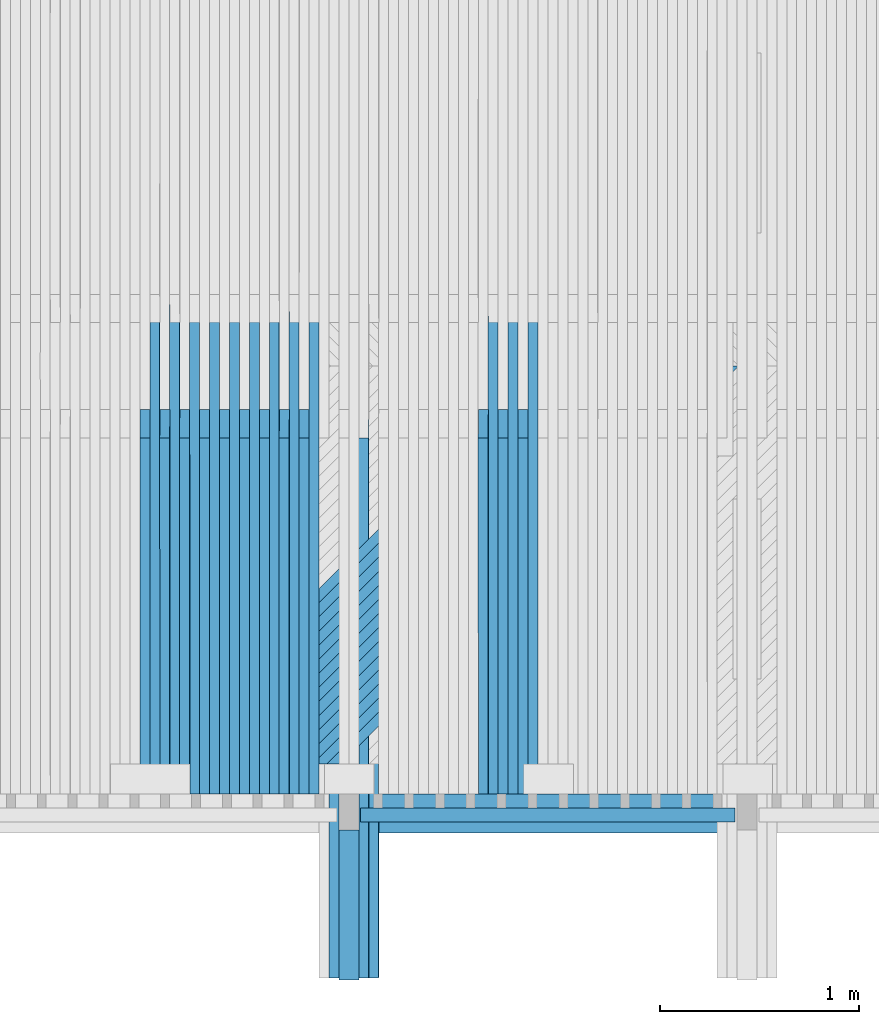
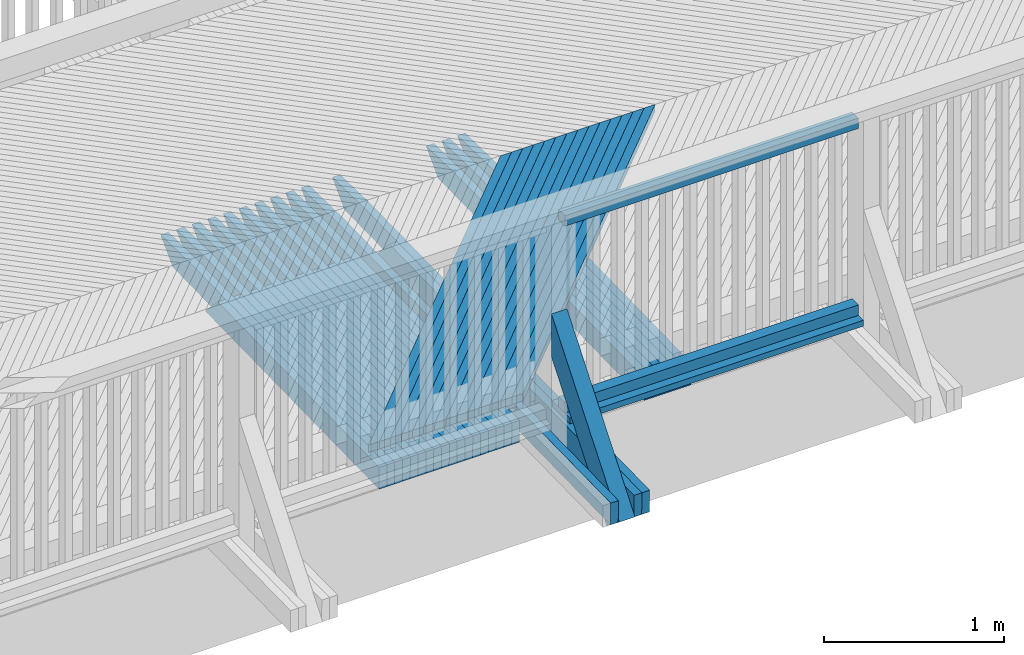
# One storey, part 23 of 53: 44 beams, 1 member.
"""IFC2X3 building model written with IfcOpenShell, lengths in millimetres."""

from ifc_helpers import new_model, si_unit, frame, origin_with_axes, place, context, subcontext, project, spatial, faceted_brep, material, type_object, element, save


model = new_model("IFC2X3")

# Units and contexts
model_context = context("Model", 3, precision=1e-05, world=origin_with_axes())
body_context = subcontext(model_context, "Body", "Model", "MODEL_VIEW")
ifc_project = project(units=[si_unit("LENGTHUNIT", "METRE", prefix="MILLI"), si_unit("AREAUNIT", "SQUARE_METRE"), si_unit("VOLUMEUNIT", "CUBIC_METRE"), si_unit("MASSUNIT", "GRAM", prefix="KILO"), si_unit("TIMEUNIT", "SECOND"), si_unit("PLANEANGLEUNIT", "RADIAN"), si_unit("SOLIDANGLEUNIT", "STERADIAN"), si_unit("THERMODYNAMICTEMPERATUREUNIT", "DEGREE_CELSIUS"), si_unit("LUMINOUSINTENSITYUNIT", "LUMEN")], contexts=[model_context])

# Site, building, storey
site_placement = place(None, origin_with_axes())
site = spatial("IfcSite", under=ifc_project, at=site_placement, Name="Undefined", CompositionType="ELEMENT")
building_placement = place(site_placement, origin_with_axes())
building = spatial("IfcBuilding", under=site, at=building_placement, Name="Undefined", CompositionType="ELEMENT")
storey_placement = place(building_placement, origin_with_axes())
storey = spatial("IfcBuildingStorey", under=building, at=storey_placement, Name="Undefined", CompositionType="ELEMENT", Elevation=0.0)

# Member
ifc_material = material(Name="TIMBER/Timber_Undefined")
member_type = type_object("IfcMemberType", Name="180*100", PredefinedType="NOTDEFINED")
member_placement = place(storey_placement, frame((6000.00641464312, 39351.2316008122, 2950.63480496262), z_axis=(0.0, -0.783926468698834, 0.620853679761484), x_axis=(-4.01699999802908e-06, 0.620853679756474, 0.783926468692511)))
element("IfcMember", 1, at=member_placement, inside=storey, type_object=member_type, material=ifc_material, Name="KAIDEPYLVÄS", ObjectType="180*100", context=body_context, shape_type="Brep", body=[
    faceted_brep([(0.0, 50.0, -89.9999999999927), (0.0, 50.0, 90.0), (1214.99480886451, 50.0000000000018, 90.0000000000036), (987.716194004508, 50.0, -89.9999999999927), (0.0, -49.9999999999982, 90.0000000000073), (1214.99440716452, -49.9999999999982, 90.0000000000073), (-3.63797880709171e-12, -49.9999999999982, -90.0), (987.715792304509, -49.9999999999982, -89.9999999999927)], [[[0, 1, 2, 3]], [[1, 4, 5, 2]], [[4, 6, 7, 5]], [[6, 0, 3, 7]], [[5, 7, 3, 2]], [[6, 4, 1, 0]]]),
])

# Beams
beam_type_1 = type_object("IfcBeamType", Name="70*70", PredefinedType="NOTDEFINED")
for number, where, z_axis, x_axis, name in (
    (2, (6060.06112513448, 40110.0100145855, 3259.99442729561), (0.0, -1.0, 0.0), (0.999998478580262, 0.0, 0.00174437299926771), "BEAM"),
    (3, (6060.06112513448, 40110.0100145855, 4524.99442729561), (0.0, -1.0, 0.0), (0.999998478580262, 0.0, 0.00174437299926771), "BEAM"),
):
    element("IfcBeam", number, at=place(storey_placement, frame(where, z_axis=z_axis, x_axis=x_axis)), inside=storey, type_object=beam_type_1, material=ifc_material, Name=name, ObjectType="70*70", context=body_context, shape_type="Brep", body=[
        faceted_brep([(-3.63797880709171e-12, 35.0000000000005, -35.0), (-3.63797880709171e-12, 35.0000000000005, 35.0), (1880.00289069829, 35.0, 35.0), (1880.00289069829, 35.0, -35.0), (-3.63797880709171e-12, -34.9999999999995, 35.0), (1880.00289069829, -35.0000000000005, 35.0), (-3.63797880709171e-12, -34.9999999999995, -35.0), (1880.00289069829, -35.0000000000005, -35.0)], [[[0, 1, 2, 3]], [[1, 4, 5, 2]], [[4, 6, 7, 5]], [[6, 0, 3, 7]], [[5, 7, 3, 2]], [[6, 4, 1, 0]]]),
    ])
beam_type_2 = type_object("IfcBeamType", Name="195*40", PredefinedType="NOTDEFINED")
beam_1_placement = place(storey_placement, frame((6059.30077842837, 40117.5100145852, 3205.00226514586), z_axis=(0.0, -1.0, 0.0), x_axis=(0.999998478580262, 0.0, 0.00174437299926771)))
element("IfcBeam", 4, at=beam_1_placement, inside=storey, type_object=beam_type_2, material=ifc_material, Name="BEAM", ObjectType="195*40", context=body_context, shape_type="Brep", body=[
    faceted_brep([(0.0, 20.0, -97.5), (0.0, 20.0, 97.5), (1880.22135781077, 19.9999999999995, 97.5), (1880.22135781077, 19.9999999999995, -97.5), (3.63797880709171e-12, -20.0, 97.5), (1880.22135781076, -20.0000000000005, 97.5), (3.63797880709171e-12, -20.0, -97.5), (1880.22135781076, -20.0000000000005, -97.5)], [[[0, 1, 2, 3]], [[1, 4, 5, 2]], [[4, 6, 7, 5]], [[6, 0, 3, 7]], [[5, 7, 3, 2]], [[6, 4, 1, 0]]]),
])
beam_type_3 = type_object("IfcBeamType", Name="50*50", PredefinedType="NOTDEFINED")
for number, where, z_axis, x_axis, name in (
    (5, (7923.63385700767, 42364.5001003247, 3236.11721724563), (0.70711609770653, -0.706981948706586, -0.0127807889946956), (-0.707094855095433, -0.706948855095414, -0.0154978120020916), "BEAM"),
    (6, (7852.9096247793, 42364.5001003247, 3236.10409357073), (0.707117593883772, -0.706981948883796, -0.0126977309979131), (-0.707093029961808, -0.706948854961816, -0.0155808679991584), "BEAM"),
    (7, (7782.18539458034, 42364.5001003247, 3236.082662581), (0.707119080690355, -0.706981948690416, -0.0126146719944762), (-0.707091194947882, -0.706948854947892, -0.0156639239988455), "BEAM"),
    (8, (7711.46116738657, 42364.5001003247, 3236.0529242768), (0.707120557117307, -0.706981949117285, -0.012531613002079), (-0.707089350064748, -0.706948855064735, -0.0157469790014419), "BEAM"),
    (9, (7640.73694417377, 42364.5001003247, 3236.01487865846), (0.707122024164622, -0.706981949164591, -0.0124485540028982), (-0.707087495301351, -0.706948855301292, -0.0158300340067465), "BEAM"),
    (10, (7570.01272591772, 42364.5001003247, 3235.96852572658), (0.707123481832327, -0.706981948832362, -0.0123654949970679), (-0.70708563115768, -0.706948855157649, -0.0159130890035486), "BEAM"),
    (11, (7499.28851359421, 42364.5001003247, 3235.91386548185), (0.707124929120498, -0.706981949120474, -0.012282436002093), (-0.707083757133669, -0.706948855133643, -0.015996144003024), "BEAM"),
    (12, (7428.56430817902, 42364.5001003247, 3235.85089792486), (0.707126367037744, -0.706981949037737, -0.0121993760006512), (-0.707081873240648, -0.706948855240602, -0.0160791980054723), "BEAM"),
    (13, (7357.84011064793, 42364.5001003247, 3235.77962305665), (0.707127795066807, -0.706981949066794, -0.0121163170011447), (-0.707079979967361, -0.706948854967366, -0.016162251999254), "BEAM"),
    (14, (7287.11592197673, 42364.5001003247, 3235.70004087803), (0.707129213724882, -0.706981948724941, -0.0120332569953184), (-0.707078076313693, -0.706948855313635, -0.0162453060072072), "BEAM"),
    (15, (7216.39174314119, 42364.5001003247, 3235.61215139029), (0.707130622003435, -0.706981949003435, -0.0119501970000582), (-0.707076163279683, -0.706948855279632, -0.0163283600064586), "BEAM"),
    (16, (7145.6675751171, 42364.5001003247, 3235.51595459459), (0.70713202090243, -0.706981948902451, -0.0118671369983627), (-0.707074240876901, -0.706948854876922, -0.0164114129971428), "BEAM"),
    (17, (7074.94341888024, 42364.5001003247, 3235.4114504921), (0.707133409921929, -0.706981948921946, -0.0117840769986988), (-0.707072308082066, -0.706948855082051, -0.0164944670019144), "BEAM"),
    (18, (7004.2192754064, 42364.5001003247, 3235.29863908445), (0.707134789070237, -0.706981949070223, -0.0117010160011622), (-0.707070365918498, -0.706948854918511, -0.0165775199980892), "BEAM"),
):
    element("IfcBeam", number, at=place(storey_placement, frame(where, z_axis=z_axis, x_axis=x_axis)), inside=storey, type_object=beam_type_3, material=ifc_material, Name=name, ObjectType="50*50", context=body_context, shape_type="Brep", body=[
        faceted_brep([(24.8942457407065, 25.0, -25.0), (-25.0086637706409, 24.9999999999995, 24.9999999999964), (2804.34067830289, 25.0, 25.0000000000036), (2854.34301907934, 24.9999999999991, -25.0000000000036), (-26.4222658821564, -25.0000000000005, 25.0000000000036), (2802.92643296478, -25.0, 25.0), (23.4806436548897, -25.0, -25.0), (2852.92877373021, -25.0000000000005, -25.0000000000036)], [[[0, 1, 2, 3]], [[1, 4, 5, 2]], [[4, 6, 7, 5]], [[6, 0, 3, 7]], [[5, 7, 3, 2]], [[6, 4, 1, 0]]]),
    ])
beam_type_4 = type_object("IfcBeamType", Name="150*50", PredefinedType="NOTDEFINED")
beam_2_placement = place(storey_placement, frame((6125.36076207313, 39292.7893475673, 3071.75363633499), z_axis=(-0.00311234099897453, -0.0199960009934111, 0.999795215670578), x_axis=(-6.36829999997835e-05, 0.999800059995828, 0.0199958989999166)))
element("IfcBeam", 19, at=beam_2_placement, inside=storey, type_object=beam_type_4, material=ifc_material, Name="BEAM", ObjectType="150*50", context=body_context, shape_type="Brep", body=[
    faceted_brep([(1.28420651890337e-08, -24.9999999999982, -74.9999999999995), (-1.28347892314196e-08, -24.9999999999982, 75.0), (-1.28347892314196e-08, 25.0, 75.0), (1.28420651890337e-08, 25.0000000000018, -75.0), (3298.90497884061, 24.9999999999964, -74.9999999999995), (3298.90492234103, -25.0, -74.9999999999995), (3434.49245887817, -25.0, 60.5875365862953), (3074.32503029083, -25.0, 75.0000000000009), (3074.32503673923, 25.0000000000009, 75.0), (3434.49251531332, 24.9999999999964, 60.5875365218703)], [[[0, 1, 2, 3]], [[0, 3, 4, 5]], [[1, 0, 5, 6, 7]], [[2, 1, 7, 8]], [[4, 3, 2, 8, 9]], [[5, 4, 9, 6]], [[8, 7, 6, 9]]]),
])
beam_3_placement = place(storey_placement, frame((6075.34321859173, 39292.7893321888, 3071.59793145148), z_axis=(-0.00327846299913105, -0.0199960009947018, 0.999794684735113), x_axis=(-6.67669999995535e-05, 0.999800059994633, 0.0199958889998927)))
element("IfcBeam", 20, at=beam_3_placement, inside=storey, type_object=beam_type_4, material=ifc_material, Name="BEAM", ObjectType="150*50", context=body_context, shape_type="Brep", body=[
    faceted_brep([(1.28420651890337e-08, -24.9999999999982, -74.9999999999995), (-1.28347892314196e-08, -24.9999999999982, 75.0), (-1.28347892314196e-08, 25.0, 75.0), (1.28420651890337e-08, 25.0000000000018, -75.0), (2852.32648139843, -25.0000000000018, -75.0000000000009), (2713.86938248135, -25.0000000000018, 74.9999999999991), (2713.86933800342, 25.0000000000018, 75.0), (2852.32643692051, 24.9999999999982, -75.0000000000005)], [[[0, 1, 2, 3]], [[1, 0, 4, 5]], [[2, 1, 5, 6]], [[3, 2, 6, 7]], [[0, 3, 7, 4]], [[4, 7, 6, 5]]]),
])
beam_4_placement = place(storey_placement, frame((5925.32402066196, 39292.7893321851, 3071.09768860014), z_axis=(-0.00344458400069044, -0.0199960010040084, 0.999794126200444), x_axis=(-6.91999999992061e-05, 0.999800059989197, 0.019995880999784)))
element("IfcBeam", 21, at=beam_4_placement, inside=storey, type_object=beam_type_4, material=ifc_material, Name="BEAM", ObjectType="150*50", context=body_context, shape_type="Brep", body=[
    faceted_brep([(1.28420651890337e-08, -24.9999999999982, -74.9999999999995), (-1.28347892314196e-08, -24.9999999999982, 75.0), (-1.28347892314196e-08, 25.0, 75.0), (1.28420651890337e-08, 25.0000000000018, -75.0), (3298.90492234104, 25.0, -75.0), (3298.90497884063, -24.9999999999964, -75.0), (3434.49251531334, -24.9999999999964, 60.587536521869), (3074.32503029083, -25.0, 75.0000000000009), (3074.32503673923, 25.0000000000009, 75.0), (3434.49245887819, 25.0, 60.5875365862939)], [[[0, 1, 2, 3]], [[0, 3, 4, 5]], [[1, 0, 5, 6, 7]], [[2, 1, 7, 8]], [[4, 3, 2, 8, 9]], [[5, 4, 9, 6]], [[6, 9, 8, 7]]]),
])
beam_5_placement = place(storey_placement, frame((6875.55134106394, 40216.5046076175, 3092.09976390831), z_axis=(-0.00194896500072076, -0.0199960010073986, 0.999798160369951), x_axis=(-3.89800000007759e-05, 0.999800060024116, 0.0199959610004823)))
element("IfcBeam", 22, at=beam_5_placement, inside=storey, type_object=beam_type_4, material=ifc_material, Name="BEAM", ObjectType="150*50", context=body_context, shape_type="Brep", body=[
    faceted_brep([(1.28420651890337e-08, -24.9999999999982, -74.9999999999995), (-1.28347892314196e-08, -24.9999999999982, 75.0), (-1.28347892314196e-08, 25.0, 75.0), (1.28420651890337e-08, 25.0000000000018, -75.0), (1928.42646353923, -25.0000000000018, -75.0), (1789.96936433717, -25.0000000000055, 74.9999999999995), (1789.96936408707, 24.9999999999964, 75.0000000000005), (1928.42646328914, 24.9999999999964, -74.9999999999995)], [[[0, 1, 2, 3]], [[1, 0, 4, 5]], [[2, 1, 5, 6]], [[3, 2, 6, 7]], [[0, 3, 7, 4]], [[7, 6, 5, 4]]]),
])
beam_6_placement = place(storey_placement, frame((6925.57129448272, 40216.5046076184, 3092.18896139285), z_axis=(-0.0017828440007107, -0.0199960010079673, 0.999798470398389), x_axis=(-3.56580000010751e-05, 0.999800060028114, 0.0199959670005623)))
element("IfcBeam", 23, at=beam_6_placement, inside=storey, type_object=beam_type_4, material=ifc_material, Name="BEAM", ObjectType="150*50", context=body_context, shape_type="Brep", body=[
    faceted_brep([(1.28420651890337e-08, -24.9999999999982, -74.9999999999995), (-1.28347892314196e-08, -24.9999999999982, 75.0), (-1.28347892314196e-08, 25.0, 75.0), (1.28420651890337e-08, 25.0000000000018, -75.0), (2375.00494422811, 25.0000000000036, -75.0), (2375.0049444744, -24.9999999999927, -74.9999999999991), (2510.5924871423, -24.9999999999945, 60.5875430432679), (2150.42514405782, -24.9999999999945, 75.0), (2150.42515052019, 25.0000000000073, 75.0), (2510.59248715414, 25.0000000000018, 60.5875433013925)], [[[0, 1, 2, 3]], [[0, 3, 4, 5]], [[1, 0, 5, 6, 7]], [[2, 1, 7, 8]], [[4, 3, 2, 8, 9]], [[5, 4, 9, 6]], [[6, 9, 8, 7]]]),
])
beam_7_placement = place(storey_placement, frame((6775.53149770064, 40216.5046076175, 3091.90462133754), z_axis=(-0.0021150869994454, -0.0199960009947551, 0.999797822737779), x_axis=(-4.23030000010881e-05, 0.999800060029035, 0.0199959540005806)))
element("IfcBeam", 24, at=beam_7_placement, inside=storey, type_object=beam_type_4, material=ifc_material, Name="BEAM", ObjectType="150*50", context=body_context, shape_type="Brep", body=[
    faceted_brep([(1.28420651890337e-08, -24.9999999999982, -74.9999999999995), (-1.28347892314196e-08, -24.9999999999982, 75.0), (-1.28347892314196e-08, 25.0, 75.0), (1.28420651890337e-08, 25.0000000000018, -75.0), (1928.42646353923, -25.0000000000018, -75.0), (1789.96936433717, -25.0000000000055, 74.9999999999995), (1789.96936408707, 24.9999999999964, 75.0000000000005), (1928.42646328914, 24.9999999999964, -74.9999999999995)], [[[0, 1, 2, 3]], [[1, 0, 4, 5]], [[2, 1, 5, 6]], [[3, 2, 6, 7]], [[0, 3, 7, 4]], [[7, 6, 5, 4]]]),
])
beam_8_placement = place(storey_placement, frame((6825.55143560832, 40216.5046076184, 3092.0021299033), z_axis=(-0.00194896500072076, -0.0199960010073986, 0.999798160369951), x_axis=(-3.89800000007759e-05, 0.999800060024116, 0.0199959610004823)))
element("IfcBeam", 25, at=beam_8_placement, inside=storey, type_object=beam_type_4, material=ifc_material, Name="BEAM", ObjectType="150*50", context=body_context, shape_type="Brep", body=[
    faceted_brep([(1.28420651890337e-08, -24.9999999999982, -74.9999999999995), (-1.28347892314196e-08, -24.9999999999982, 75.0), (-1.28347892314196e-08, 25.0, 75.0), (1.28420651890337e-08, 25.0000000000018, -75.0), (2375.00494422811, 25.0000000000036, -75.0), (2375.0049444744, -24.9999999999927, -74.9999999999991), (2510.5924871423, -24.9999999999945, 60.5875430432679), (2150.42514405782, -24.9999999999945, 75.0), (2150.42515052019, 25.0000000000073, 75.0), (2510.59248715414, 25.0000000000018, 60.5875433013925)], [[[0, 1, 2, 3]], [[0, 3, 4, 5]], [[1, 0, 5, 6, 7]], [[2, 1, 7, 8]], [[4, 3, 2, 8, 9]], [[5, 4, 9, 6]], [[6, 9, 8, 7]]]),
])
beam_9_placement = place(storey_placement, frame((6675.51168814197, 40216.5046076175, 3091.6928599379), z_axis=(-0.00228120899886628, -0.019996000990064, 0.999797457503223), x_axis=(-4.5625000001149e-05, 0.99980006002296, 0.0199959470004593)))
element("IfcBeam", 26, at=beam_9_placement, inside=storey, type_object=beam_type_4, material=ifc_material, Name="BEAM", ObjectType="150*50", context=body_context, shape_type="Brep", body=[
    faceted_brep([(1.28420651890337e-08, -24.9999999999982, -74.9999999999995), (-1.28347892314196e-08, -24.9999999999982, 75.0), (-1.28347892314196e-08, 25.0, 75.0), (1.28420651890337e-08, 25.0000000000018, -75.0), (1928.42646353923, -25.0000000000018, -75.0), (1789.96936433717, -25.0000000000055, 74.9999999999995), (1789.96936408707, 24.9999999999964, 75.0000000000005), (1928.42646328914, 24.9999999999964, -74.9999999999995)], [[[0, 1, 2, 3]], [[1, 0, 4, 5]], [[2, 1, 5, 6]], [[3, 2, 6, 7]], [[0, 3, 7, 4]], [[7, 6, 5, 4]]]),
])
beam_10_placement = place(storey_placement, frame((6725.53160915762, 40216.5046076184, 3091.79867958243), z_axis=(-0.0021150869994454, -0.0199960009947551, 0.999797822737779), x_axis=(-4.23030000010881e-05, 0.999800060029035, 0.0199959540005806)))
element("IfcBeam", 27, at=beam_10_placement, inside=storey, type_object=beam_type_4, material=ifc_material, Name="BEAM", ObjectType="150*50", context=body_context, shape_type="Brep", body=[
    faceted_brep([(1.28420651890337e-08, -24.9999999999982, -74.9999999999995), (-1.28347892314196e-08, -24.9999999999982, 75.0), (-1.28347892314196e-08, 25.0, 75.0), (1.28420651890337e-08, 25.0000000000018, -75.0), (2375.00494422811, 25.0000000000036, -75.0), (2375.0049444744, -24.9999999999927, -74.9999999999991), (2510.5924871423, -24.9999999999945, 60.5875430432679), (2150.42514405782, -24.9999999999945, 75.0), (2150.42515052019, 25.0000000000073, 75.0), (2510.59248715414, 25.0000000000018, 60.5875433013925)], [[[0, 1, 2, 3]], [[0, 3, 4, 5]], [[1, 0, 5, 6, 7]], [[2, 1, 7, 8]], [[4, 3, 2, 8, 9]], [[5, 4, 9, 6]], [[6, 9, 8, 7]]]),
])
beam_11_placement = place(storey_placement, frame((5775.93537890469, 40216.5046076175, 3089.0393605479), z_axis=(-0.00377630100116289, -0.0199960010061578, 0.999792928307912), x_axis=(-7.55270000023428e-05, 0.999800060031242, 0.0199958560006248)))
element("IfcBeam", 28, at=beam_11_placement, inside=storey, type_object=beam_type_4, material=ifc_material, Name="BEAM", ObjectType="150*50", context=body_context, shape_type="Brep", body=[
    faceted_brep([(1.28420651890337e-08, -24.9999999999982, -74.9999999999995), (-1.28347892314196e-08, -24.9999999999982, 75.0), (-1.28347892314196e-08, 25.0, 75.0), (1.28420651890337e-08, 25.0000000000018, -75.0), (1928.42646353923, -25.0000000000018, -75.0), (1789.96936433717, -25.0000000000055, 74.9999999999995), (1789.96936408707, 24.9999999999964, 75.0000000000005), (1928.42646328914, 24.9999999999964, -74.9999999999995)], [[[0, 1, 2, 3]], [[1, 0, 4, 5]], [[2, 1, 5, 6]], [[3, 2, 6, 7]], [[0, 3, 7, 4]], [[7, 6, 5, 4]]]),
])
beam_12_placement = place(storey_placement, frame((5825.95508575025, 40216.5046076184, 3089.21997974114), z_axis=(-0.00361070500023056, -0.0199960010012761, 0.999793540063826), x_axis=(-7.22040000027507e-05, 0.999800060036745, 0.019995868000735)))
element("IfcBeam", 29, at=beam_12_placement, inside=storey, type_object=beam_type_4, material=ifc_material, Name="BEAM", ObjectType="150*50", context=body_context, shape_type="Brep", body=[
    faceted_brep([(1.28420651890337e-08, -24.9999999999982, -74.9999999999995), (-1.28347892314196e-08, -24.9999999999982, 75.0), (-1.28347892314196e-08, 25.0, 75.0), (1.28420651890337e-08, 25.0000000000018, -75.0), (2375.00494422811, 25.0000000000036, -75.0), (2375.0049444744, -24.9999999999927, -74.9999999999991), (2510.5924871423, -24.9999999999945, 60.5875430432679), (2150.42514405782, -24.9999999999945, 75.0), (2150.42515052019, 25.0000000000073, 75.0), (2510.59248715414, 25.0000000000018, 60.5875433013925)], [[[0, 1, 2, 3]], [[0, 3, 4, 5]], [[1, 0, 5, 6, 7]], [[2, 1, 7, 8]], [[4, 3, 2, 8, 9]], [[5, 4, 9, 6]], [[6, 9, 8, 7]]]),
])
beam_13_placement = place(storey_placement, frame((5675.91605922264, 40216.5046076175, 3088.66151095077), z_axis=(-0.00394242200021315, -0.0199960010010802, 0.999792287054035), x_axis=(-7.88490000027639e-05, 0.999800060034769, 0.0199958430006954)))
element("IfcBeam", 30, at=beam_13_placement, inside=storey, type_object=beam_type_4, material=ifc_material, Name="BEAM", ObjectType="150*50", context=body_context, shape_type="Brep", body=[
    faceted_brep([(1.28420651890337e-08, -24.9999999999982, -74.9999999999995), (-1.28347892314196e-08, -24.9999999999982, 75.0), (-1.28347892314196e-08, 25.0, 75.0), (1.28420651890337e-08, 25.0000000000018, -75.0), (1928.42646353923, -25.0000000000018, -75.0), (1789.96936433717, -25.0000000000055, 74.9999999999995), (1789.96936408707, 24.9999999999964, 75.0000000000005), (1928.42646328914, 24.9999999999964, -74.9999999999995)], [[[0, 1, 2, 3]], [[1, 0, 4, 5]], [[2, 1, 5, 6]], [[3, 2, 6, 7]], [[0, 3, 7, 4]], [[7, 6, 5, 4]]]),
])
beam_14_placement = place(storey_placement, frame((5725.9357353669, 40216.5046076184, 3088.8504411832), z_axis=(-0.00377630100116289, -0.0199960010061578, 0.999792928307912), x_axis=(-7.55270000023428e-05, 0.999800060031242, 0.0199958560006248)))
element("IfcBeam", 31, at=beam_14_placement, inside=storey, type_object=beam_type_4, material=ifc_material, Name="BEAM", ObjectType="150*50", context=body_context, shape_type="Brep", body=[
    faceted_brep([(1.28420651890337e-08, -24.9999999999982, -74.9999999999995), (-1.28347892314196e-08, -24.9999999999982, 75.0), (-1.28347892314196e-08, 25.0, 75.0), (1.28420651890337e-08, 25.0000000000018, -75.0), (2375.00494422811, 25.0000000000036, -75.0), (2375.0049444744, -24.9999999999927, -74.9999999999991), (2510.5924871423, -24.9999999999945, 60.5875430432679), (2150.42514405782, -24.9999999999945, 75.0), (2150.42515052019, 25.0000000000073, 75.0), (2510.59248715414, 25.0000000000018, 60.5875433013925)], [[[0, 1, 2, 3]], [[0, 3, 4, 5]], [[1, 0, 5, 6, 7]], [[2, 1, 7, 8]], [[4, 3, 2, 8, 9]], [[5, 4, 9, 6]], [[6, 9, 8, 7]]]),
])
beam_15_placement = place(storey_placement, frame((5575.89680370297, 40216.5046076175, 3088.2670426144), z_axis=(-0.00410854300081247, -0.0199960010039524, 0.999791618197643), x_axis=(-8.21720000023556e-05, 0.99980006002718, 0.0199958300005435)))
element("IfcBeam", 32, at=beam_15_placement, inside=storey, type_object=beam_type_4, material=ifc_material, Name="BEAM", ObjectType="150*50", context=body_context, shape_type="Brep", body=[
    faceted_brep([(1.28420651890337e-08, -24.9999999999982, -74.9999999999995), (-1.28347892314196e-08, -24.9999999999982, 75.0), (-1.28347892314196e-08, 25.0, 75.0), (1.28420651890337e-08, 25.0000000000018, -75.0), (1928.42646353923, -25.0000000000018, -75.0), (1789.96936433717, -25.0000000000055, 74.9999999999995), (1789.96936408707, 24.9999999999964, 75.0000000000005), (1928.42646328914, 24.9999999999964, -74.9999999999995)], [[[0, 1, 2, 3]], [[1, 0, 4, 5]], [[2, 1, 5, 6]], [[3, 2, 6, 7]], [[0, 3, 7, 4]], [[7, 6, 5, 4]]]),
])
beam_16_placement = place(storey_placement, frame((5625.916447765, 40216.5046076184, 3088.46428388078), z_axis=(-0.00394242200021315, -0.0199960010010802, 0.999792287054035), x_axis=(-7.88490000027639e-05, 0.999800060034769, 0.0199958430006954)))
element("IfcBeam", 33, at=beam_16_placement, inside=storey, type_object=beam_type_4, material=ifc_material, Name="BEAM", ObjectType="150*50", context=body_context, shape_type="Brep", body=[
    faceted_brep([(1.28420651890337e-08, -24.9999999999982, -74.9999999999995), (-1.28347892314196e-08, -24.9999999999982, 75.0), (-1.28347892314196e-08, 25.0, 75.0), (1.28420651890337e-08, 25.0000000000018, -75.0), (2375.00494422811, 25.0000000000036, -75.0), (2375.0049444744, -24.9999999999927, -74.9999999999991), (2510.5924871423, -24.9999999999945, 60.5875430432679), (2150.42514405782, -24.9999999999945, 75.0), (2150.42515052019, 25.0000000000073, 75.0), (2510.59248715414, 25.0000000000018, 60.5875433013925)], [[[0, 1, 2, 3]], [[0, 3, 4, 5]], [[1, 0, 5, 6, 7]], [[2, 1, 7, 8]], [[4, 3, 2, 8, 9]], [[5, 4, 9, 6]], [[6, 9, 8, 7]]]),
])
beam_17_placement = place(storey_placement, frame((5475.87761510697, 40216.5046076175, 3087.85595554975), z_axis=(-0.00427466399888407, -0.0199960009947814, 0.999790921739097), x_axis=(-8.54940000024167e-05, 0.999800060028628, 0.0199958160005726)))
element("IfcBeam", 34, at=beam_17_placement, inside=storey, type_object=beam_type_4, material=ifc_material, Name="BEAM", ObjectType="150*50", context=body_context, shape_type="Brep", body=[
    faceted_brep([(1.28420651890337e-08, -24.9999999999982, -74.9999999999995), (-1.28347892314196e-08, -24.9999999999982, 75.0), (-1.28347892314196e-08, 25.0, 75.0), (1.28420651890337e-08, 25.0000000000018, -75.0), (1928.42646353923, -25.0000000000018, -75.0), (1789.96936433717, -25.0000000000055, 74.9999999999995), (1789.96936408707, 24.9999999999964, 75.0000000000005), (1928.42646328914, 24.9999999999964, -74.9999999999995)], [[[0, 1, 2, 3]], [[1, 0, 4, 5]], [[2, 1, 5, 6]], [[3, 2, 6, 7]], [[0, 3, 7, 4]], [[7, 6, 5, 4]]]),
])
beam_18_placement = place(storey_placement, frame((5525.89722570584, 40216.5046076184, 3088.06150784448), z_axis=(-0.00410854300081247, -0.0199960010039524, 0.999791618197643), x_axis=(-8.21720000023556e-05, 0.99980006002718, 0.0199958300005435)))
element("IfcBeam", 35, at=beam_18_placement, inside=storey, type_object=beam_type_4, material=ifc_material, Name="BEAM", ObjectType="150*50", context=body_context, shape_type="Brep", body=[
    faceted_brep([(1.28420651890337e-08, -24.9999999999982, -74.9999999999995), (-1.28347892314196e-08, -24.9999999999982, 75.0), (-1.28347892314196e-08, 25.0, 75.0), (1.28420651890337e-08, 25.0000000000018, -75.0), (2375.00494422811, 25.0000000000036, -75.0), (2375.0049444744, -24.9999999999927, -74.9999999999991), (2510.5924871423, -24.9999999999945, 60.5875430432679), (2150.42514405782, -24.9999999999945, 75.0), (2150.42515052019, 25.0000000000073, 75.0), (2510.59248715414, 25.0000000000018, 60.5875433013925)], [[[0, 1, 2, 3]], [[0, 3, 4, 5]], [[1, 0, 5, 6, 7]], [[2, 1, 7, 8]], [[4, 3, 2, 8, 9]], [[5, 4, 9, 6]], [[6, 9, 8, 7]]]),
])
beam_19_placement = place(storey_placement, frame((5375.85849619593, 40216.5046076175, 3087.42824976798), z_axis=(-0.0044407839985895, -0.0199960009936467, 0.999790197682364), x_axis=(-8.88170000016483e-05, 0.999800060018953, 0.0199958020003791)))
element("IfcBeam", 36, at=beam_19_placement, inside=storey, type_object=beam_type_4, material=ifc_material, Name="BEAM", ObjectType="150*50", context=body_context, shape_type="Brep", body=[
    faceted_brep([(1.28420651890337e-08, -24.9999999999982, -74.9999999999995), (-1.28347892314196e-08, -24.9999999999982, 75.0), (-1.28347892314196e-08, 25.0, 75.0), (1.28420651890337e-08, 25.0000000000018, -75.0), (1928.42646353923, -25.0000000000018, -75.0), (1789.96936433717, -25.0000000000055, 74.9999999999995), (1789.96936408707, 24.9999999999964, 75.0000000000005), (1928.42646328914, 24.9999999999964, -74.9999999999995)], [[[0, 1, 2, 3]], [[1, 0, 4, 5]], [[2, 1, 5, 6]], [[3, 2, 6, 7]], [[0, 3, 7, 4]], [[7, 6, 5, 4]]]),
])
beam_20_placement = place(storey_placement, frame((5425.87807195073, 40216.5046076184, 3087.6421130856), z_axis=(-0.00427466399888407, -0.0199960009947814, 0.999790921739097), x_axis=(-8.54940000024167e-05, 0.999800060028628, 0.0199958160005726)))
element("IfcBeam", 37, at=beam_20_placement, inside=storey, type_object=beam_type_4, material=ifc_material, Name="BEAM", ObjectType="150*50", context=body_context, shape_type="Brep", body=[
    faceted_brep([(1.28420651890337e-08, -24.9999999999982, -74.9999999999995), (-1.28347892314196e-08, -24.9999999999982, 75.0), (-1.28347892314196e-08, 25.0, 75.0), (1.28420651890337e-08, 25.0000000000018, -75.0), (2375.00494422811, 25.0000000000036, -75.0), (2375.0049444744, -24.9999999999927, -74.9999999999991), (2510.5924871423, -24.9999999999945, 60.5875430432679), (2150.42514405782, -24.9999999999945, 75.0), (2150.42515052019, 25.0000000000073, 75.0), (2510.59248715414, 25.0000000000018, 60.5875433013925)], [[[0, 1, 2, 3]], [[0, 3, 4, 5]], [[1, 0, 5, 6, 7]], [[2, 1, 7, 8]], [[4, 3, 2, 8, 9]], [[5, 4, 9, 6]], [[6, 9, 8, 7]]]),
])
beam_21_placement = place(storey_placement, frame((5275.83944973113, 40216.5046076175, 3086.98392528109), z_axis=(-0.00460690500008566, -0.0199960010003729, 0.999789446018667), x_axis=(-9.21390000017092e-05, 0.999800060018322, 0.0199957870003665)))
element("IfcBeam", 38, at=beam_21_placement, inside=storey, type_object=beam_type_4, material=ifc_material, Name="BEAM", ObjectType="150*50", context=body_context, shape_type="Brep", body=[
    faceted_brep([(1.28420651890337e-08, -24.9999999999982, -74.9999999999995), (-1.28347892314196e-08, -24.9999999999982, 75.0), (-1.28347892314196e-08, 25.0, 75.0), (1.28420651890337e-08, 25.0000000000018, -75.0), (1928.42646353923, -25.0000000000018, -75.0), (1789.96936433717, -25.0000000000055, 74.9999999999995), (1789.96936408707, 24.9999999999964, 75.0000000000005), (1928.42646328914, 24.9999999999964, -74.9999999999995)], [[[0, 1, 2, 3]], [[1, 0, 4, 5]], [[2, 1, 5, 6]], [[3, 2, 6, 7]], [[0, 3, 7, 4]], [[7, 6, 5, 4]]]),
])
beam_22_placement = place(storey_placement, frame((5325.85898926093, 40216.5046076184, 3087.20609961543), z_axis=(-0.0044407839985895, -0.0199960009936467, 0.999790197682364), x_axis=(-8.88170000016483e-05, 0.999800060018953, 0.0199958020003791)))
element("IfcBeam", 39, at=beam_22_placement, inside=storey, type_object=beam_type_4, material=ifc_material, Name="BEAM", ObjectType="150*50", context=body_context, shape_type="Brep", body=[
    faceted_brep([(1.28420651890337e-08, -24.9999999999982, -74.9999999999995), (-1.28347892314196e-08, -24.9999999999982, 75.0), (-1.28347892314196e-08, 25.0, 75.0), (1.28420651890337e-08, 25.0000000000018, -75.0), (2375.00494422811, 25.0000000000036, -75.0), (2375.0049444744, -24.9999999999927, -74.9999999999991), (2510.5924871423, -24.9999999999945, 60.5875430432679), (2150.42514405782, -24.9999999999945, 75.0), (2150.42515052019, 25.0000000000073, 75.0), (2510.59248715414, 25.0000000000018, 60.5875433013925)], [[[0, 1, 2, 3]], [[0, 3, 4, 5]], [[1, 0, 5, 6, 7]], [[2, 1, 7, 8]], [[4, 3, 2, 8, 9]], [[5, 4, 9, 6]], [[6, 9, 8, 7]]]),
])
beam_23_placement = place(storey_placement, frame((5175.82047847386, 40216.5046076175, 3086.52298210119), z_axis=(-0.00477302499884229, -0.0199960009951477, 0.999788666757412), x_axis=(-9.54610000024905e-05, 0.999800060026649, 0.019995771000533)))
element("IfcBeam", 40, at=beam_23_placement, inside=storey, type_object=beam_type_4, material=ifc_material, Name="BEAM", ObjectType="150*50", context=body_context, shape_type="Brep", body=[
    faceted_brep([(1.28420651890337e-08, -24.9999999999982, -74.9999999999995), (-1.28347892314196e-08, -24.9999999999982, 75.0), (-1.28347892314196e-08, 25.0, 75.0), (1.28420651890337e-08, 25.0000000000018, -75.0), (1928.42646353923, -25.0000000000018, -75.0), (1789.96936433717, -25.0000000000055, 74.9999999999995), (1789.96936408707, 24.9999999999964, 75.0000000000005), (1928.42646328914, 24.9999999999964, -74.9999999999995)], [[[0, 1, 2, 3]], [[1, 0, 4, 5]], [[2, 1, 5, 6]], [[3, 2, 6, 7]], [[0, 3, 7, 4]], [[7, 6, 5, 4]]]),
])
beam_24_placement = place(storey_placement, frame((5225.83998039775, 40216.5046076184, 3086.75346744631), z_axis=(-0.00460690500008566, -0.0199960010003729, 0.999789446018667), x_axis=(-9.21390000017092e-05, 0.999800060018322, 0.0199957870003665)))
element("IfcBeam", 41, at=beam_24_placement, inside=storey, type_object=beam_type_4, material=ifc_material, Name="BEAM", ObjectType="150*50", context=body_context, shape_type="Brep", body=[
    faceted_brep([(1.28420651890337e-08, -24.9999999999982, -74.9999999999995), (-1.28347892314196e-08, -24.9999999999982, 75.0), (-1.28347892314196e-08, 25.0, 75.0), (1.28420651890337e-08, 25.0000000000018, -75.0), (2375.00494422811, 25.0000000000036, -75.0), (2375.0049444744, -24.9999999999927, -74.9999999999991), (2510.5924871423, -24.9999999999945, 60.5875430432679), (2150.42514405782, -24.9999999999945, 75.0), (2150.42515052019, 25.0000000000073, 75.0), (2510.59248715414, 25.0000000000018, 60.5875433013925)], [[[0, 1, 2, 3]], [[0, 3, 4, 5]], [[1, 0, 5, 6, 7]], [[2, 1, 7, 8]], [[4, 3, 2, 8, 9]], [[5, 4, 9, 6]], [[6, 9, 8, 7]]]),
])
beam_25_placement = place(storey_placement, frame((5075.8015851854, 40216.5046076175, 3086.04542024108), z_axis=(-0.004939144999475, -0.0199960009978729, 0.999787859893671), x_axis=(-9.87840000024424e-05, 0.999800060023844, 0.0199957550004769)))
element("IfcBeam", 42, at=beam_25_placement, inside=storey, type_object=beam_type_4, material=ifc_material, Name="BEAM", ObjectType="150*50", context=body_context, shape_type="Brep", body=[
    faceted_brep([(1.28420651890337e-08, -24.9999999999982, -74.9999999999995), (-1.28347892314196e-08, -24.9999999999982, 75.0), (-1.28347892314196e-08, 25.0, 75.0), (1.28420651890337e-08, 25.0000000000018, -75.0), (1928.42646353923, -25.0000000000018, -75.0), (1789.96936433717, -25.0000000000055, 74.9999999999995), (1789.96936408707, 24.9999999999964, 75.0000000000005), (1928.42646328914, 24.9999999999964, -74.9999999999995)], [[[0, 1, 2, 3]], [[1, 0, 4, 5]], [[2, 1, 5, 6]], [[3, 2, 6, 7]], [[0, 3, 7, 4]], [[7, 6, 5, 4]]]),
])
beam_26_placement = place(storey_placement, frame((5125.82104812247, 40216.5046076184, 3086.28421659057), z_axis=(-0.00477302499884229, -0.0199960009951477, 0.999788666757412), x_axis=(-9.54610000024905e-05, 0.999800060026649, 0.019995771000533)))
element("IfcBeam", 43, at=beam_26_placement, inside=storey, type_object=beam_type_4, material=ifc_material, Name="BEAM", ObjectType="150*50", context=body_context, shape_type="Brep", body=[
    faceted_brep([(1.28420651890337e-08, -24.9999999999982, -74.9999999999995), (-1.28347892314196e-08, -24.9999999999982, 75.0), (-1.28347892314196e-08, 25.0, 75.0), (1.28420651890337e-08, 25.0000000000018, -75.0), (2375.00494422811, 25.0000000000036, -75.0), (2375.0049444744, -24.9999999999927, -74.9999999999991), (2510.5924871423, -24.9999999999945, 60.5875430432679), (2150.42514405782, -24.9999999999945, 75.0), (2150.42515052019, 25.0000000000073, 75.0), (2510.59248715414, 25.0000000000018, 60.5875433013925)], [[[0, 1, 2, 3]], [[0, 3, 4, 5]], [[1, 0, 5, 6, 7]], [[2, 1, 7, 8]], [[4, 3, 2, 8, 9]], [[5, 4, 9, 6]], [[6, 9, 8, 7]]]),
])
beam_27_placement = place(storey_placement, frame((4975.78277262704, 40216.5046076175, 3085.55123971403), z_axis=(-0.00510526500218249, -0.0199960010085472, 0.999787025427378), x_axis=(-0.000102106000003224, 0.999800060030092, 0.0199957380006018)))
element("IfcBeam", 44, at=beam_27_placement, inside=storey, type_object=beam_type_4, material=ifc_material, Name="BEAM", ObjectType="150*50", context=body_context, shape_type="Brep", body=[
    faceted_brep([(1.28420651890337e-08, -24.9999999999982, -74.9999999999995), (-1.28347892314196e-08, -24.9999999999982, 75.0), (-1.28347892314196e-08, 25.0, 75.0), (1.28420651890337e-08, 25.0000000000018, -75.0), (1928.42646353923, -25.0000000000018, -75.0), (1789.96936433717, -25.0000000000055, 74.9999999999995), (1789.96936408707, 24.9999999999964, 75.0000000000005), (1928.42646328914, 24.9999999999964, -74.9999999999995)], [[[0, 1, 2, 3]], [[1, 0, 4, 5]], [[2, 1, 5, 6]], [[3, 2, 6, 7]], [[0, 3, 7, 4]], [[7, 6, 5, 4]]]),
])
beam_28_placement = place(storey_placement, frame((5025.80219519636, 40216.5046076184, 3085.79834706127), z_axis=(-0.004939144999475, -0.0199960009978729, 0.999787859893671), x_axis=(-9.87840000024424e-05, 0.999800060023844, 0.0199957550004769)))
element("IfcBeam", 45, at=beam_28_placement, inside=storey, type_object=beam_type_4, material=ifc_material, Name="BEAM", ObjectType="150*50", context=body_context, shape_type="Brep", body=[
    faceted_brep([(1.28420651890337e-08, -24.9999999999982, -74.9999999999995), (-1.28347892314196e-08, -24.9999999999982, 75.0), (-1.28347892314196e-08, 25.0, 75.0), (1.28420651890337e-08, 25.0000000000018, -75.0), (2375.00494422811, 25.0000000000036, -75.0), (2375.0049444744, -24.9999999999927, -74.9999999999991), (2510.5924871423, -24.9999999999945, 60.5875430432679), (2150.42514405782, -24.9999999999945, 75.0), (2150.42515052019, 25.0000000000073, 75.0), (2510.59248715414, 25.0000000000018, 60.5875433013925)], [[[0, 1, 2, 3]], [[0, 3, 4, 5]], [[1, 0, 5, 6, 7]], [[2, 1, 7, 8]], [[4, 3, 2, 8, 9]], [[5, 4, 9, 6]], [[6, 9, 8, 7]]]),
])

save(model, "model.ifc")
